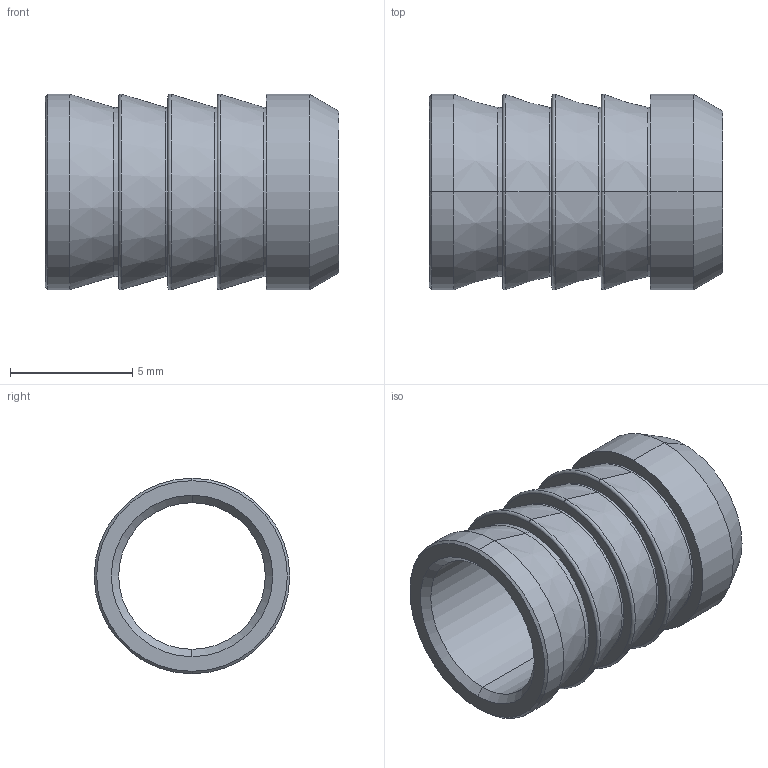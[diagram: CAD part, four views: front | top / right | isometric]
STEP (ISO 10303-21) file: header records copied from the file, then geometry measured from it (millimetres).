
FILE_DESCRIPTION (( 'STEP AP214' ), '1' );
FILE_NAME ('04_Ø8x12_Tischverbinder_DZ000189.STEP', '2026-03-24T14:07:22', ( '' ), ( '' ), 'SwSTEP 2.0', 'SolidWorks 2021', '' );
FILE_SCHEMA (( 'AUTOMOTIVE_DESIGN' ));
Length unit declared in the file: millimetre
Products named in the file (1): 04_Ø8x12_Tischverbinder_DZ000189
Bounding box: 12 x 8 x 8 mm (x, y, z)
Volume: 199.6 mm3; surface area: 594 mm2
Topology: 1 solids, 1 shells, 40 faces, 80 edges, 46 vertices
Faces by surface type: cylinder 14, cone 14, torus 6, plane 6
Entity records: 1078 total; most frequent: DIRECTION 214, CARTESIAN_POINT 167, ORIENTED_EDGE 160, AXIS2_PLACEMENT_3D 93, EDGE_CURVE 80, CIRCLE 52, EDGE_LOOP 46, VERTEX_POINT 46
